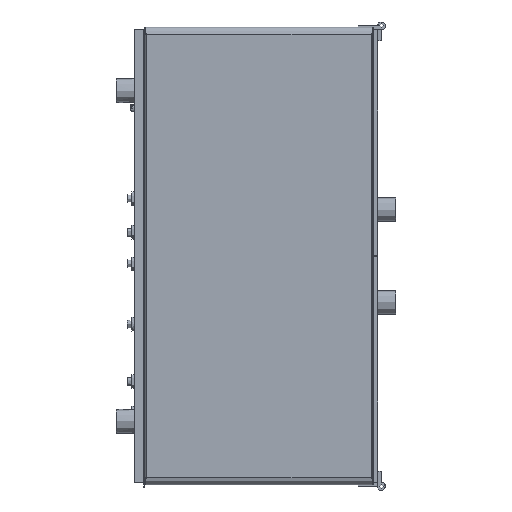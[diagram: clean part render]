
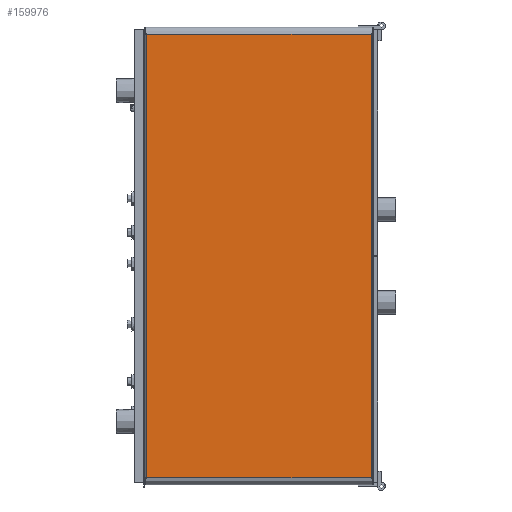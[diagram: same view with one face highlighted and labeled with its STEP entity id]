
A CAD part, left-side view. The second image highlights one B-rep face of the part: STEP entity #159976.
In plain terms, the highlighted planar face has unit normal (-1, 0, 0).
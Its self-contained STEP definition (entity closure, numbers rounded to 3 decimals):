
#4013=PLANE('',#171545);
#13718=FACE_OUTER_BOUND('',#22552,.T.);
#22552=EDGE_LOOP('',(#120778,#120779,#120780,#120781));
#42687=LINE('',#254721,#56083);
#42690=LINE('',#254727,#56086);
#42691=LINE('',#254732,#56087);
#42695=LINE('',#254742,#56091);
#56083=VECTOR('',#199770,10.);
#56086=VECTOR('',#199779,10.);
#56087=VECTOR('',#199786,10.);
#56091=VECTOR('',#199800,10.);
#69836=VERTEX_POINT('',#254389);
#69867=VERTEX_POINT('',#254500);
#69903=VERTEX_POINT('',#254657);
#69915=VERTEX_POINT('',#254730);
#88530=EDGE_CURVE('',#69836,#69867,#42687,.T.);
#88533=EDGE_CURVE('',#69903,#69836,#42690,.T.);
#88536=EDGE_CURVE('',#69867,#69915,#42691,.T.);
#88542=EDGE_CURVE('',#69915,#69903,#42695,.T.);
#120778=ORIENTED_EDGE('',*,*,#88530,.T.);
#120779=ORIENTED_EDGE('',*,*,#88536,.T.);
#120780=ORIENTED_EDGE('',*,*,#88542,.T.);
#120781=ORIENTED_EDGE('',*,*,#88533,.T.);
#159976=ADVANCED_FACE('',(#13718),#4013,.T.);
#171545=AXIS2_PLACEMENT_3D('',#254741,#199798,#199799);
#199770=DIRECTION('',(0.,0.,1.));
#199779=DIRECTION('',(0.,-1.,0.));
#199786=DIRECTION('',(0.,1.,0.));
#199798=DIRECTION('center_axis',(-1.,0.,0.));
#199799=DIRECTION('ref_axis',(0.,0.,
-1.));
#199800=DIRECTION('',(0.,0.,-1.));
#254389=CARTESIAN_POINT('',(-550.5,-388.,7.5));
#254500=CARTESIAN_POINT('',(-550.5,-388.,734.5));
#254657=CARTESIAN_POINT('',(-550.5,-20.,7.5));
#254721=CARTESIAN_POINT('',(-550.5,-388.,552.75));
#254727=CARTESIAN_POINT('',(-550.5,-110.5,7.5));
#254730=CARTESIAN_POINT('',(-550.5,-20.,734.5));
#254732=CARTESIAN_POINT('',(-550.5,-297.5,734.5));
#254741=CARTESIAN_POINT('Origin',(-550.5,-204.,371.));
#254742=CARTESIAN_POINT('',(-550.5,-20.,203.5));
